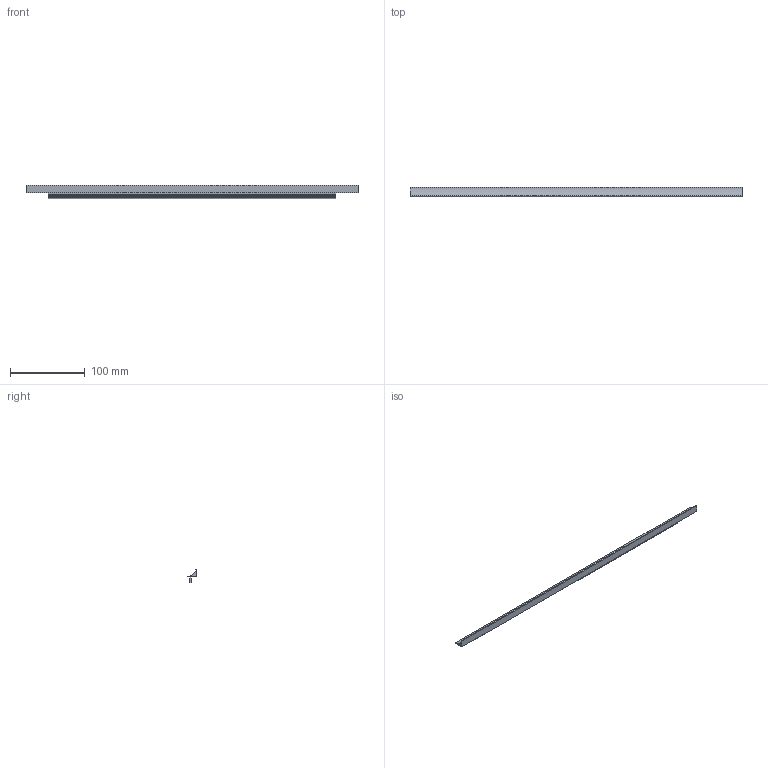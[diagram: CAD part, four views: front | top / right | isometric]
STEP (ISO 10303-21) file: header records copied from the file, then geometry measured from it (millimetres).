
FILE_DESCRIPTION( ( 'STEP AP214' ), '1' );
FILE_NAME( 'D:/Shahbaz D&D/Task/Working-ON/Correct Handle bar Riaza/QC/9208091/9208091.stp', '2023-03-13T09:02:07', ( '' ), ( '' ), ' ', 'PARTsolutions', ' ' );
FILE_SCHEMA( ( 'AUTOMOTIVE_DESIGN { 1 0 10303 214 1 1 1 1 }' ) );
Length unit declared in the file: millimetre
Products named in the file (1): _9208091
Bounding box: 445 x 12.5 x 18 mm (x, y, z)
Volume: 24813.3 mm3; surface area: 25483.3 mm2
Topology: 1 solids, 1 shells, 28 faces, 75 edges, 50 vertices
Faces by surface type: plane 25, cylinder 3
Entity records: 1105 total; most frequent: CARTESIAN_POINT 154, ORIENTED_EDGE 150, DIRECTION 139, EDGE_CURVE 75, LINE 69, VECTOR 69, VERTEX_POINT 50, AXIS2_PLACEMENT_3D 35
